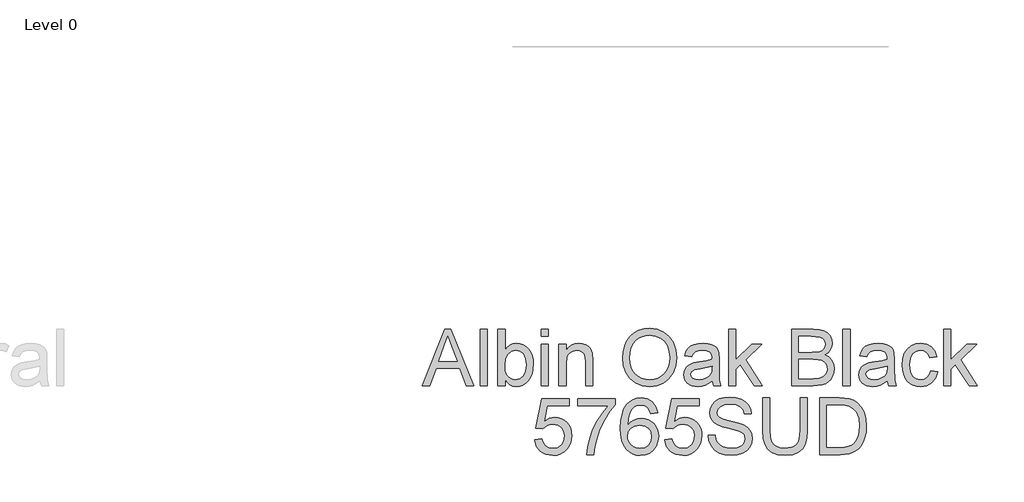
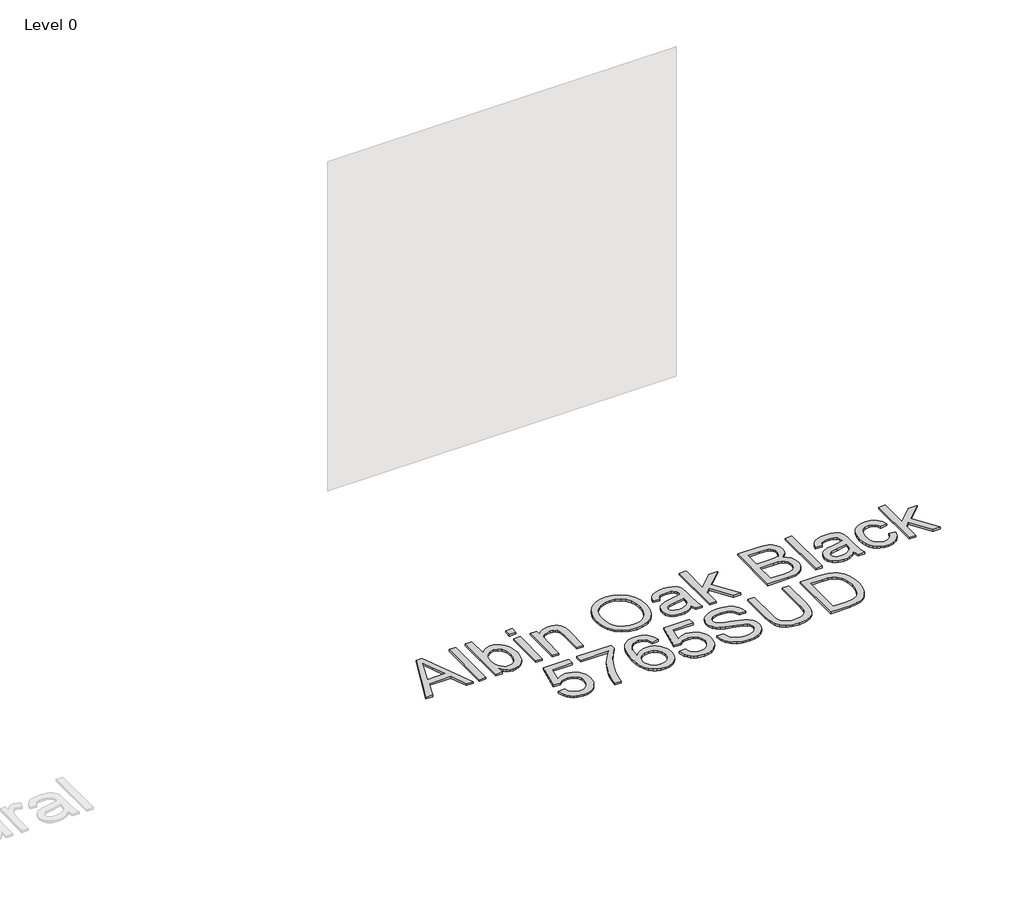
# One storey, part 32 of 43: 1 proxy.
"""IFC4 building model written with IfcOpenShell, lengths in millimetres."""

from ifc_helpers import new_model, si_unit, origin, origin_with_axes, place, context, project, spatial, polyline, outline, extrude, element, save

model = new_model("IFC4")

# Units and contexts
model_context = context("Model", 3, world=origin())
ifc_project = project(units=[si_unit("LENGTHUNIT", "METRE", prefix="MILLI")], contexts=[model_context])

# Site, building, storey
site = spatial("IfcSite", under=ifc_project)
building = spatial("IfcBuilding", under=site)
storey = spatial("IfcBuildingStorey", under=building, Name="Level 0", Elevation=0.0)

# Proxy
placement = place(None, origin())
element("IfcBuildingElementProxy", 1, Name="300mm Arial", ObjectType="300mm Arial", at=placement, inside=storey, context=model_context, shape_type="SweptSolid", body=[
    extrude(outline(polyline([(9068.6169131, -7002.860494), (9188.9143255, -6701.4915635), (9220.9936355, -6701.4915635), (9341.2910479, -7002.860494), (9301.4862161, -7002.860494), (9266.9788849, -6908.6827032), (9142.8554997, -6908.6827032), (9108.421745, -7002.860494), (9068.6169131, -7002.860494)]), holes=[polyline([(9156.6878628, -6871.0115869), (9253.2200983, -6871.0115869), (9226.070407, -6796.9201531), (9204.9539805, -6739.1626798), (9186.1919988, -6790.44543), (9156.6878628, -6871.0115869)])]), origin_with_axes(), (0.0, 0.0, 1.0), 10.0),
    extrude(outline(polyline([(9376.8284487, -7002.860494), (9376.8284487, -6701.4915635), (9414.499565, -6701.4915635), (9414.499565, -7002.860494), (9376.8284487, -7002.860494)])), origin_with_axes(), (0.0, 0.0, 1.0), 10.0),
    extrude(outline(polyline([(9508.6773557, -7002.860494), (9471.0062394, -7002.860494), (9471.0062394, -6701.4915635), (9508.6773557, -6701.4915635), (9508.6773557, -6813.2541137), (9521.0657819, -6797.3202248), (9535.0544948, -6785.9388755), (9550.6434943, -6779.110066), (9567.8327806, -6776.8337961), (9587.2385558, -6778.8847383), (9605.5774733, -6785.0375646), (9621.8010693, -6794.9059992), (9634.8608801, -6808.1037657), (9645.0971966, -6824.5021057), (9652.8503096, -6843.9722603), (9657.7339431, -6865.7048891), (9659.361821, -6888.8906519), (9657.6764616, -6915.64487), (9652.6203834, -6939.1801206), (9644.1935864, -6959.4964038), (9632.3960707, -6976.5937195), (9618.2349132, -6990.1455725), (9602.7171908, -6999.8254675), (9585.8429035, -7005.6334045), (9567.6120514, -7007.5693835), (9549.8571466, -7005.0723845), (9534.1163957, -6997.5813874), (9520.3897988, -6985.0963921), (9508.6773557, -6967.6173988), (9508.6773557, -7002.860494)]), holes=[polyline([(9508.6773557, -6890.6564855), (9511.2525297, -6922.0736078), (9518.9780516, -6943.3371872), (9528.1061236, -6954.9576597), (9538.7149206, -6963.2579972), (9550.8044427, -6968.2381997), (9564.3746898, -6969.8982672), (9586.1165157, -6965.0054367), (9604.6945565, -6950.3269451), (9617.4416676, -6925.9547629), (9621.6907047, -6891.9808606), (9617.6164116, -6857.5103177), (9605.3935323, -6833.414047), (9587.3949057, -6819.2321961), (9565.9933706, -6814.5049125), (9544.2515447, -6819.397743), (9525.6735039, -6834.0762346), (9512.9263928, -6858.0069584), (9508.6773557, -6890.6564855)])]), origin_with_axes(), (0.0, 0.0, 1.0), 10.0),
    extrude(outline(polyline([(9701.7418268, -6739.1626798), (9701.7418268, -6701.4915635), (9739.4129431, -6701.4915635), (9739.4129431, -6739.1626798), (9701.7418268, -6739.1626798)])), origin_with_axes(), (0.0, 0.0, 1.0), 10.0),
    extrude(outline(polyline([(9701.7418268, -7002.860494), (9701.7418268, -6781.5426857), (9739.4129431, -6781.5426857), (9739.4129431, -7002.860494), (9701.7418268, -7002.860494)])), origin_with_axes(), (0.0, 0.0, 1.0), 10.0),
    extrude(outline(polyline([(9795.9196176, -7002.860494), (9795.9196176, -6781.5426857), (9833.5907339, -6781.5426857), (9833.5907339, -6812.4447733), (9846.6781359, -6796.8649708), (9862.3958941, -6785.7365404), (9880.7440086, -6779.0594822), (9901.7224794, -6776.8337961), (9920.2913231, -6778.6272209), (9937.2966683, -6784.0074951), (9951.4785192, -6792.303234), (9961.57688, -6802.8430532), (9972.8708573, -6830.5445674), (9974.85742, -6866.964885), (9974.85742, -7002.860494), (9937.1863037, -7002.860494), (9937.1863037, -6872.0416565), (9932.8452962, -6838.7115477), (9926.8396226, -6828.7879309), (9917.504617, -6821.0900002), (9905.5392551, -6816.1511844), (9891.6425127, -6814.5049125), (9869.5787901, -6818.2021265), (9850.7708231, -6829.2937687), (9843.254534, -6838.3482643), (9837.8857562, -6850.7228949), (9833.5907339, -6885.4325611), (9833.5907339, -7002.860494), (9795.9196176, -7002.860494)])), origin_with_axes(), (0.0, 0.0, 1.0), 10.0),
    extrude(outline(polyline([(10134.9596643, -6856.1491543), (10137.4704589, -6820.8002931), (10145.0028428, -6789.5073309), (10157.5568159, -6762.2702677), (10175.1323782, -6739.0891034), (10196.6764675, -6720.5800406), (10221.1360217, -6707.3592814), (10248.5110407, -6699.4268258), (10278.8015244, -6696.782674), (10318.3304448, -6701.7490809), (10353.7758751, -6716.6483017), (10383.2064347, -6740.4318727), (10404.6907432, -6772.0513302), (10417.8241304, -6809.9799639), (10422.2019262, -6852.6910636), (10417.5942042, -6895.9723803), (10403.7710382, -6934.4344429), (10381.4957834, -6966.1090827), (10351.5317949, -6989.028131), (10316.3898673, -7002.9340704), (10278.5807952, -7007.5693835), (10238.4448696, -7002.4466267), (10202.7971042, -6987.0783564), (10173.440121, -6962.853327), (10152.1765417, -6931.1602931), (10139.2638837, -6894.6939903), (10134.9596643, -6856.1491543)]), holes=[polyline([(10172.6307806, -6856.5170363), (10174.5138766, -6881.4916252), (10180.1631645, -6903.661114), (10189.5786443, -6923.0255025), (10202.760316, -6939.5847908), (10218.7838762, -6952.8469367), (10236.7250212, -6962.3198981), (10256.5837512, -6968.0036749), (10278.360066, -6969.8982672), (10300.5088614, -6967.9852808), (10320.6021161, -6962.2463217), (10338.6398302, -6952.6813898), (10354.6220036, -6939.2904852), (10367.7071064, -6922.381709), (10377.0536083, -6902.2631624), (10382.6615095, -6878.9348454), (10384.5308099, -6852.396758), (10381.3302365, -6819.0482551), (10371.7285164, -6790.2247008), (10355.97397, -6766.6526619), (10334.3149175, -6749.0587055), (10308.1860988, -6738.1050191), (10279.0222536, -6734.4537903), (10258.0023961, -6736.2127261), (10238.5000519, -6741.4895335), (10220.5152208, -6750.2842124), (10204.047903, -6762.5967629), (10190.302912, -6779.0203948), (10180.4850612, -6800.1483176), (10174.5943508, -6825.9805314), (10172.6307806, -6856.5170363)])]), origin_with_axes(), (0.0, 0.0, 1.0), 10.0),
    extrude(outline(polyline([(10610.5575077, -6974.6071568), (10592.5588811, -6990.0398064), (10574.0268256, -7000.1381672), (10554.5382769, -7005.7115794), (10533.6701707, -7007.5693835), (10502.188669, -7003.0996173), (10478.966118, -6989.6903186), (10464.6463114, -6969.3280501), (10459.8730425, -6943.9993748), (10461.6756642, -6928.3827841), (10467.0835296, -6914.2009331), (10475.4252538, -6902.0608273), (10486.0294523, -6892.5694718), (10512.4065914, -6880.2086368), (10545.0009361, -6874.5432541), (10583.518181, -6868.5835657), (10610.3367785, -6861.5938078), (10610.5575077, -6853.2060983), (10607.9639396, -6836.3938912), (10600.1832354, -6825.3942195), (10582.7824171, -6817.2272392), (10558.5389936, -6814.5049125), (10536.0981919, -6816.3167313), (10520.4264189, -6821.7521878), (10509.7394469, -6831.8045633), (10502.2530483, -6847.4671392), (10464.581932, -6842.7582497), (10471.1210345, -6822.156858), (10480.8791044, -6805.9700502), (10494.7666497, -6793.590821), (10513.6941784, -6784.4121652), (10536.8431529, -6778.7283884), (10563.3950359, -6776.8337961), (10588.861667, -6778.5076592), (10609.0491915, -6783.5292485), (10624.2703091, -6791.0800264), (10634.8377194, -6800.3414556), (10641.8458714, -6811.7917827), (10646.389214, -6825.9092543), (10648.228624, -6858.8714811), (10648.228624, -6905.7396473), (10650.1416104, -6971.1858542), (10657.6464031, -7002.860494), (10619.9752868, -7002.860494), (10610.5575077, -6974.6071568)]), holes=[polyline([(10610.5575077, -6899.2649241), (10549.7834021, -6910.8164188), (10517.3729983, -6916.9232599), (10502.6945067, -6926.8560738), (10497.5441588, -6941.3506244), (10500.349259, -6952.5526311), (10508.7645596, -6961.7312869), (10522.6061197, -6967.8565221), (10541.6899982, -6969.8982672), (10561.9235079, -6967.64499), (10579.8025729, -6960.8851583), (10594.2971235, -6950.9247533), (10604.3770902, -6939.069756), (10608.8468564, -6926.8560738), (10610.3367785, -6909.933502), (10610.5575077, -6899.2649241)])]), origin_with_axes(), (0.0, 0.0, 1.0), 10.0),
    extrude(outline(polyline([(10700.0264089, -7002.860494), (10700.0264089, -6701.4915635), (10737.6975252, -6701.4915635), (10737.6975252, -6863.4332178), (10822.1632313, -6781.5426857), (10874.2553218, -6781.5426857), (10788.7595462, -6864.4632874), (10878.9642114, -7002.860494), (10834.9655247, -7002.860494), (10761.7570077, -6890.6564855), (10737.6975252, -6913.9802039), (10737.6975252, -7002.860494), (10700.0264089, -7002.860494)])), origin_with_axes(), (0.0, 0.0, 1.0), 10.0),
    extrude(outline(polyline([(11034.3575661, -7002.860494), (11034.3575661, -6701.4915635), (11149.3574778, -6701.4915635), (11180.9861324, -6703.7080526), (11205.6802113, -6710.3575196), (11224.6077399, -6721.6055116), (11238.9367437, -6737.6175755), (11247.9590496, -6756.4531336), (11250.9664849, -6776.1716086), (11248.4372962, -6794.317388), (11240.84973, -6811.3779155), (11228.1486041, -6826.3047274), (11210.2787362, -6838.0493601), (11231.625089, -6849.1961846), (11247.3980295, -6866.1555446), (11257.1377054, -6887.8054), (11260.384264, -6913.0237108), (11258.1677749, -6934.0389697), (11251.5183079, -6953.5275184), (11241.5946911, -6970.1006023), (11229.5557528, -6982.3694669), (11214.8128818, -6991.253817), (11196.777467, -6997.6733578), (11148.474561, -7002.860494), (11034.3575661, -7002.860494)]), holes=[polyline([(11072.0286824, -6823.9226915), (11140.8226155, -6823.9226915), (11180.9953294, -6820.68533), (11195.0576187, -6815.1027207), (11205.1651765, -6806.7426024), (11211.2628206, -6795.7337336), (11213.2953686, -6782.2048733), (11211.4007763, -6769.071486), (11205.7169995, -6757.630356), (11196.5015555, -6748.7000206), (11184.0119618, -6743.0990172), (11135.5986912, -6739.1626798), (11072.0286824, -6739.1626798), (11072.0286824, -6823.9226915)]), polyline([(11072.0286824, -6965.1893777), (11149.2839014, -6965.1893777), (11177.2429331, -6963.7178497), (11200.8977454, -6955.5140812), (11216.5695183, -6938.7754504), (11221.1772403, -6926.9480443), (11222.7131477, -6913.3915928), (11220.9105259, -6897.6462434), (11215.5026606, -6884.1081859), (11206.0572903, -6873.5223815), (11192.1421539, -6866.6337912), (11172.432876, -6862.8538037), (11145.6050815, -6861.5938078), (11072.0286824, -6861.5938078), (11072.0286824, -6965.1893777)])]), origin_with_axes(), (0.0, 0.0, 1.0), 10.0),
    extrude(outline(polyline([(11307.4731594, -7002.860494), (11307.4731594, -6701.4915635), (11345.1442757, -6701.4915635), (11345.1442757, -7002.860494), (11307.4731594, -7002.860494)])), origin_with_axes(), (0.0, 0.0, 1.0), 10.0),
    extrude(outline(polyline([(11542.9176363, -6974.6071568), (11524.9190097, -6990.0398064), (11506.3869541, -7000.1381672), (11486.8984055, -7005.7115794), (11466.0302993, -7007.5693835), (11434.5487975, -7003.0996173), (11411.3262466, -6989.6903186), (11397.0064399, -6969.3280501), (11392.233171, -6943.9993748), (11394.0357928, -6928.3827841), (11399.4436581, -6914.2009331), (11407.7853824, -6902.0608273), (11418.3895809, -6892.5694718), (11444.76672, -6880.2086368), (11477.3610647, -6874.5432541), (11515.8783096, -6868.5835657), (11542.6969071, -6861.5938078), (11542.9176363, -6853.2060983), (11540.3240682, -6836.3938912), (11532.543364, -6825.3942195), (11515.1425456, -6817.2272392), (11490.8991221, -6814.5049125), (11468.4583204, -6816.3167313), (11452.7865474, -6821.7521878), (11442.0995755, -6831.8045633), (11434.6131769, -6847.4671392), (11396.9420606, -6842.7582497), (11403.481163, -6822.156858), (11413.239233, -6805.9700502), (11427.1267783, -6793.590821), (11446.0543069, -6784.4121652), (11469.2032815, -6778.7283884), (11495.7551645, -6776.8337961), (11521.2217956, -6778.5076592), (11541.4093201, -6783.5292485), (11556.6304376, -6791.0800264), (11567.1978479, -6800.3414556), (11574.206, -6811.7917827), (11578.7493426, -6825.9092543), (11580.5887526, -6858.8714811), (11580.5887526, -6905.7396473), (11582.5017389, -6971.1858542), (11590.0065316, -7002.860494), (11552.3354153, -7002.860494), (11542.9176363, -6974.6071568)]), holes=[polyline([(11542.9176363, -6899.2649241), (11482.1435307, -6910.8164188), (11449.7331269, -6916.9232599), (11435.0546353, -6926.8560738), (11429.9042873, -6941.3506244), (11432.7093876, -6952.5526311), (11441.1246882, -6961.7312869), (11454.9662483, -6967.8565221), (11474.0501268, -6969.8982672), (11494.2836365, -6967.64499), (11512.1627015, -6960.8851583), (11526.6572521, -6950.9247533), (11536.7372187, -6939.069756), (11541.206985, -6926.8560738), (11542.6969071, -6909.933502), (11542.9176363, -6899.2649241)])]), origin_with_axes(), (0.0, 0.0, 1.0), 10.0),
    extrude(outline(polyline([(11773.6532236, -6922.8093718), (11811.3243399, -6927.5182614), (11800.821309, -6961.0231141), (11781.0844399, -6986.3425924), (11753.9715369, -7002.2626857), (11721.3404039, -7007.5693835), (11700.2124811, -7005.7184772), (11681.2688576, -7000.1657584), (11664.5095335, -6990.9112269), (11649.9345087, -6977.9548829), (11638.1369929, -6961.5404481), (11629.710196, -6941.9116444), (11624.6541178, -6919.0684718), (11622.9687584, -6893.0109302), (11625.847435, -6859.4876834), (11634.4834649, -6830.4342028), (11649.0148037, -6806.9725286), (11669.5794072, -6790.2247008), (11694.1815156, -6780.1815223), (11720.8253691, -6776.8337961), (11752.6563588, -6781.4323211), (11778.1045958, -6795.2278959), (11796.3607398, -6817.4847566), (11806.6154504, -6847.4671392), (11768.9443341, -6852.1760288), (11762.110926, -6835.7409006), (11751.4699393, -6823.9594797), (11737.6099852, -6816.8685543), (11721.1196747, -6814.5049125), (11696.7750837, -6819.1586197), (11677.4520819, -6833.1197414), (11664.8429265, -6857.1424357), (11660.6398747, -6891.9808606), (11664.750956, -6927.2883351), (11677.0841999, -6951.3938029), (11696.0577138, -6965.2721511), (11720.0896051, -6969.8982672), (11739.5965479, -6967.0103936), (11755.5902177, -6958.3467726), (11767.2244858, -6943.6866751), (11773.6532236, -6922.8093718)])), origin_with_axes(), (0.0, 0.0, 1.0), 10.0),
    extrude(outline(polyline([(11844.2865667, -7002.860494), (11844.2865667, -6701.4915635), (11881.957683, -6701.4915635), (11881.957683, -6863.4332178), (11966.4233891, -6781.5426857), (12018.5154796, -6781.5426857), (11933.019704, -6864.4632874), (12023.2243692, -7002.860494), (11979.2256825, -7002.860494), (11906.0171655, -6890.6564855), (11881.957683, -6913.9802039), (11881.957683, -7002.860494), (11844.2865667, -7002.860494)])), origin_with_axes(), (0.0, 0.0, 1.0), 10.0),
    extrude(outline(polyline([(9666.4251553, -7288.7338254), (9704.0962716, -7284.0249358), (9711.0124531, -7306.6404815), (9723.0789825, -7322.8364863), (9740.2406776, -7332.5761621), (9762.442356, -7335.8227207), (9789.4448945, -7331.3069693), (9809.6784042, -7317.7597148), (9822.3151507, -7296.7444558), (9826.5273996, -7269.8246908), (9822.5818652, -7244.4776213), (9810.745262, -7225.0902402), (9790.9256195, -7212.7845875), (9763.0309672, -7208.6827032), (9744.7564291, -7210.3197781), (9729.9583758, -7215.2310027), (9708.8051611, -7232.2271509), (9671.1340448, -7227.5182614), (9704.0962716, -7072.1249066), (9850.0718473, -7072.1249066), (9850.0718473, -7109.7960229), (9734.5569008, -7109.7960229), (9718.4436694, -7192.790201), (9745.3542373, -7176.4562404), (9773.5523923, -7171.0115869), (9791.8982075, -7172.6992456), (9808.7495022, -7177.7622215), (9824.1062762, -7186.2005148), (9837.9685296, -7198.0141254), (9849.4441486, -7212.4810848), (9857.6410193, -7228.8794248), (9862.5591417, -7247.2091452), (9864.1985159, -7267.470246), (9858.2940099, -7305.1413624), (9850.9133773, -7321.9351754), (9840.5804918, -7337.3678251), (9824.9271129, -7353.1729553), (9806.6617718, -7364.4623341), (9785.7844686, -7371.2359613), (9762.2952032, -7373.4938371), (9725.2954715, -7367.6904986), (9709.6168008, -7360.4363255), (9695.8189267, -7350.2804832), (9684.3387092, -7337.7288093), (9675.6130081, -7323.2871418), (9666.4251553, -7288.7338254)])), origin_with_axes(), (0.0, 0.0, 1.0), 10.0),
    extrude(outline(polyline([(9897.1607426, -7109.7960229), (9897.1607426, -7072.1249066), (10094.9341033, -7072.1249066), (10094.9341033, -7102.5855358), (10066.7451454, -7138.2608923), (10038.832099, -7183.6299393), (10014.2115965, -7234.5540045), (9995.9002701, -7286.8944154), (9986.9239495, -7326.0554538), (9981.9207543, -7368.7849475), (9944.249638, -7368.7849475), (9948.3239311, -7329.9550029), (9959.2224352, -7283.8042066), (9976.6508448, -7234.8850983), (10000.3148541, -7187.7502177), (10027.9427919, -7145.1402856), (10057.2629869, -7109.7960229), (9897.1607426, -7109.7960229)])), origin_with_axes(), (0.0, 0.0, 1.0), 10.0),
    extrude(outline(polyline([(10320.9608011, -7147.4671392), (10283.2896848, -7152.1760288), (10277.2196319, -7133.5060175), (10269.0158634, -7120.7589064), (10251.9277447, -7109.0050766), (10231.2711707, -7105.0871334), (10213.7599877, -7107.3680017), (10197.2788743, -7114.2106069), (10183.1246145, -7128.622384), (10171.5639228, -7148.4604206), (10163.7556275, -7176.5206198), (10160.8585568, -7215.5988847), (10175.9693097, -7197.9681401), (10194.078301, -7185.5429257), (10214.1738549, -7178.1760888), (10235.2442962, -7175.7204764), (10253.3440904, -7177.3989381), (10270.045933, -7182.4343229), (10285.349824, -7190.8266309), (10299.2557634, -7202.5758621), (10310.8118565, -7216.9830407), (10319.0662088, -7233.349191), (10324.0188202, -7251.6743129), (10325.6696906, -7271.9584064), (10322.5610878, -7298.9333537), (10313.2352792, -7323.9401323), (10298.4648171, -7345.1485293), (10279.0222536, -7360.7283318), (10255.7905056, -7370.3024607), (10229.6524899, -7373.4938371), (10207.1955933, -7371.3785156), (10186.9137991, -7365.0325512), (10168.8071071, -7354.4559438), (10152.8755175, -7339.6486935), (10139.8869838, -7319.9854009), (10130.6094597, -7294.8406665), (10125.0429453, -7264.2144904), (10123.1874405, -7228.1068726), (10125.2475797, -7187.6260575), (10131.4279972, -7153.0773396), (10141.728693, -7124.4607189), (10156.1496672, -7101.7761954), (10171.7800535, -7086.7436174), (10189.9028403, -7076.0060617), (10210.5180276, -7069.5635282), (10233.6256154, -7067.4160171), (10266.6798127, -7072.7319119), (10293.1489223, -7088.6795964), (10311.6901748, -7114.0082718), (10320.9608011, -7147.4671392)]), holes=[polyline([(10160.8585568, -7271.3697952), (10163.0382576, -7288.0624407), (10169.5773601, -7304.0009282), (10179.7309031, -7317.7045325), (10192.7539258, -7327.6925287), (10208.471684, -7333.7901727), (10226.7094339, -7335.8227207), (10251.5690597, -7331.6104719), (10271.1127907, -7318.9737254), (10283.7771284, -7299.1080976), (10287.9985743, -7273.2092052), (10283.8323107, -7248.3495793), (10271.3335199, -7229.3944595), (10251.4586951, -7217.3923095), (10225.1643295, -7213.3915928), (10200.3414919, -7217.3923095), (10179.5837503, -7229.3944595), (10165.5398552, -7247.8897269), (10160.8585568, -7271.3697952)])]), origin_with_axes(), (0.0, 0.0, 1.0), 10.0),
    extrude(outline(polyline([(10358.6319174, -7288.7338254), (10396.3030337, -7284.0249358), (10403.2192152, -7306.6404815), (10415.2857447, -7322.8364863), (10432.4474397, -7332.5761621), (10454.6491181, -7335.8227207), (10481.6516566, -7331.3069693), (10501.8851663, -7317.7597148), (10514.5219128, -7296.7444558), (10518.7341617, -7269.8246908), (10514.7886273, -7244.4776213), (10502.9520241, -7225.0902402), (10483.1323816, -7212.7845875), (10455.2377293, -7208.6827032), (10436.9631912, -7210.3197781), (10422.165138, -7215.2310027), (10401.0119232, -7232.2271509), (10363.3408069, -7227.5182614), (10396.3030337, -7072.1249066), (10542.2786094, -7072.1249066), (10542.2786094, -7109.7960229), (10426.7636629, -7109.7960229), (10410.6504315, -7192.790201), (10437.5609995, -7176.4562404), (10465.7591544, -7171.0115869), (10484.1049696, -7172.6992456), (10500.9562643, -7177.7622215), (10516.3130383, -7186.2005148), (10530.1752917, -7198.0141254), (10541.6509107, -7212.4810848), (10549.8477814, -7228.8794248), (10554.7659039, -7247.2091452), (10556.405278, -7267.470246), (10550.500772, -7305.1413624), (10543.1201394, -7321.9351754), (10532.7872539, -7337.3678251), (10517.133875, -7353.1729553), (10498.868534, -7364.4623341), (10477.9912307, -7371.2359613), (10454.5019653, -7373.4938371), (10417.5022337, -7367.6904986), (10401.8235629, -7360.4363255), (10388.0256888, -7350.2804832), (10376.5454713, -7337.7288093), (10367.8197702, -7323.2871418), (10358.6319174, -7288.7338254)])), origin_with_axes(), (0.0, 0.0, 1.0), 10.0),
    extrude(outline(polyline([(10589.3675048, -7265.1893777), (10627.0386211, -7265.1893777), (10631.3612345, -7286.0942721), (10639.1787269, -7302.8972822), (10651.3740151, -7316.2330045), (10668.8300157, -7326.7360355), (10690.1671714, -7333.5510494), (10714.0059247, -7335.8227207), (10734.9935926, -7334.1028724), (10753.3692982, -7328.9433274), (10768.259322, -7320.7763471), (10778.7899441, -7310.0341929), (10785.0531351, -7297.700949), (10787.1408654, -7284.7606998), (10785.5773669, -7272.1515444), (10780.8868715, -7261.2530403), (10771.3587278, -7251.9548229), (10755.2822846, -7244.1465276), (10700.4310791, -7229.7623415), (10664.4246288, -7220.2433949), (10641.3860189, -7211.1843008), (10622.6332342, -7198.510766), (10609.3434971, -7183.1516928), (10601.4248372, -7165.4381747), (10598.7852838, -7145.7013056), (10602.0502366, -7123.637583), (10611.8450947, -7103.0637824), (10627.9123408, -7085.6261758), (10649.9944576, -7072.9710352), (10676.5003553, -7065.2731044), (10705.8389444, -7062.7071275), (10737.6239488, -7065.3926661), (10765.4358277, -7073.4492818), (10788.2812996, -7086.7114277), (10805.1670831, -7105.013557), (10815.8540551, -7127.2152354), (10820.1030921, -7152.1760288), (10782.4319758, -7152.1760288), (10775.5157943, -7129.6984389), (10761.0948201, -7113.4748429), (10738.5620479, -7103.6523936), (10707.3104724, -7100.3782438), (10675.3231329, -7103.6156054), (10653.3789719, -7113.3276901), (10640.6870431, -7127.6199056), (10636.4564002, -7144.5976597), (10639.4546384, -7159.0738162), (10648.4493532, -7170.7172813), (10669.7129325, -7181.1283418), (10709.9592228, -7191.7601314), (10751.4931, -7201.8584922), (10776.6194403, -7210.669266), (10798.0945518, -7224.3360821), (10813.076546, -7241.2034716), (10821.8781228, -7261.0874934), (10824.8119817, -7283.8042066), (10821.4366644, -7307.0267576), (10811.3107125, -7328.869751), (10794.8479932, -7347.668521), (10772.4623738, -7361.7584014), (10745.5426088, -7370.5599781), (10715.4774527, -7373.4938371), (10678.5696915, -7370.3300519), (10648.1918358, -7360.8386964), (10623.9943976, -7344.9829824), (10605.627889, -7322.7261217), (10593.837271, -7295.6132187), (10589.3675048, -7265.1893777)])), origin_with_axes(), (0.0, 0.0, 1.0), 10.0),
    extrude(outline(polyline([(11079.0920167, -7067.4160171), (11116.7631331, -7067.4160171), (11116.7631331, -7241.277048), (11114.2063532, -7281.9923878), (11106.5360136, -7313.3451308), (11092.2070099, -7337.533372), (11069.6742377, -7356.7552063), (11038.8825147, -7369.3091794), (10999.7766586, -7373.4938371), (10961.5261281, -7369.8518053), (10930.9459373, -7358.92571), (10908.026889, -7341.0926303), (10892.7597862, -7316.7296452), (10884.1789387, -7284.052527), (10881.3186561, -7241.277048), (10881.3186561, -7067.4160171), (10918.9897724, -7067.4160171), (10918.9897724, -7239.9526728), (10920.8475765, -7273.8070134), (10926.4209887, -7297.3790523), (10936.5193495, -7313.7038158), (10951.9519992, -7325.8163305), (10972.0751444, -7333.3211232), (10996.2449914, -7335.8227207), (11034.5599012, -7330.8747079), (11048.9027005, -7324.6896919), (11060.0357294, -7316.0306694), (11068.3728551, -7303.8537754), (11074.3279449, -7287.1151446), (11079.0920167, -7239.9526728), (11079.0920167, -7067.4160171)])), origin_with_axes(), (0.0, 0.0, 1.0), 10.0),
    extrude(outline(polyline([(11182.6875866, -7368.7849475), (11182.6875866, -7067.4160171), (11286.6510384, -7067.4160171), (11340.4353861, -7071.7570246), (11364.4580804, -7080.12634), (11384.7283783, -7093.3149095), (11405.5688934, -7116.270746), (11420.4129319, -7144.8183889), (11429.2972821, -7178.406015), (11432.2587321, -7216.4818015), (11430.2537752, -7248.8278259), (11424.2389046, -7277.2926953), (11415.0786429, -7301.5269217), (11403.6375129, -7321.1810173), (11390.4673375, -7336.6964405), (11376.1199397, -7348.5146496), (11359.6480233, -7357.2794381), (11340.1042923, -7363.6345996), (11291.6542336, -7368.7849475), (11182.6875866, -7368.7849475)]), holes=[polyline([(11220.3587029, -7331.1138312), (11287.0189204, -7331.1138312), (11314.591676, -7329.7526678), (11335.5057674, -7325.6691777), (11351.287905, -7319.1024841), (11363.464799, -7310.2917103), (11376.552201, -7293.9853408), (11386.3838473, -7272.8781114), (11392.5366737, -7246.8780514), (11394.5876158, -7215.8931903), (11390.568505, -7174.8375597), (11378.5111726, -7144.5240833), (11360.696487, -7123.7019623), (11339.4053165, -7111.1203981), (11317.737067, -7106.5954496), (11285.9888508, -7105.0871334), (11220.3587029, -7105.0871334), (11220.3587029, -7331.1138312)])]), origin_with_axes(), (0.0, 0.0, 1.0), 10.0),
])

save(model, "model.ifc")
